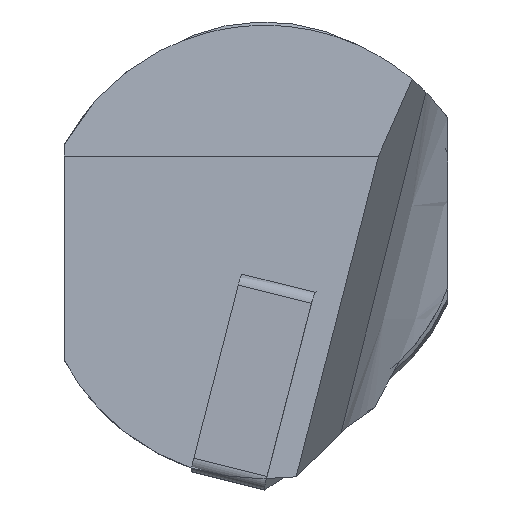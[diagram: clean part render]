
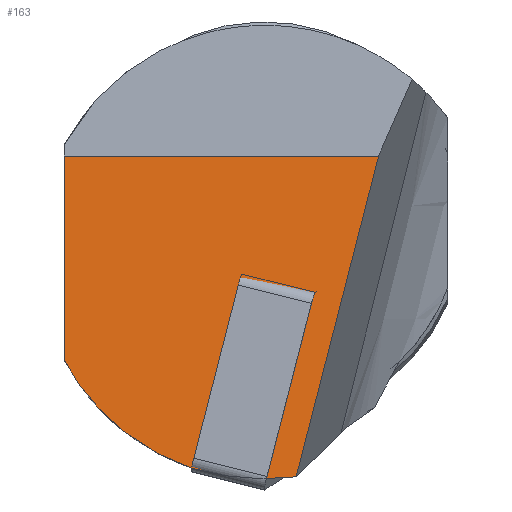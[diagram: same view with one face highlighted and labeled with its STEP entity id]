
A CAD part, top view. The second image highlights one B-rep face of the part: STEP entity #163.
In plain terms, the highlighted planar face has unit normal (0, 0.084, 0.997).
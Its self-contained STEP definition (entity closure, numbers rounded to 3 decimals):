
#120=PLANE('',#590);
#163=ADVANCED_FACE('',(#201),#120,.F.);
#201=FACE_OUTER_BOUND('',#224,.T.);
#224=EDGE_LOOP('',(#313,#314,#315,#316,#317));
#269=ELLIPSE('',#580,16.23,16.172);
#270=ELLIPSE('',#589,14.367,14.316);
#313=ORIENTED_EDGE('',*,*,#458,.T.);
#314=ORIENTED_EDGE('',*,*,#477,.F.);
#315=ORIENTED_EDGE('',*,*,#481,.T.);
#316=ORIENTED_EDGE('',*,*,#482,.T.);
#317=ORIENTED_EDGE('',*,*,#483,.F.);
#412=VERTEX_POINT('',#791);
#413=VERTEX_POINT('',#792);
#427=VERTEX_POINT('',#868);
#428=VERTEX_POINT('',#933);
#429=VERTEX_POINT('',#935);
#458=EDGE_CURVE('',#412,#413,#269,.T.);
#477=EDGE_CURVE('',#427,#413,#524,.T.);
#481=EDGE_CURVE('',#427,#428,#527,.T.);
#482=EDGE_CURVE('',#428,#429,#528,.T.);
#483=EDGE_CURVE('',#412,#429,#270,.T.);
#524=LINE('',#867,#553);
#527=LINE('',#932,#556);
#528=LINE('',#934,#557);
#553=VECTOR('',#658,1.);
#556=VECTOR('',#663,1.);
#557=VECTOR('',#664,1.);
#580=AXIS2_PLACEMENT_3D('',#790,#638,#639);
#589=AXIS2_PLACEMENT_3D('',#936,#665,#666);
#590=AXIS2_PLACEMENT_3D('',#937,#667,#668);
#638=DIRECTION('',(0.,0.084,0.997));
#639=DIRECTION('',(0.,-0.997,0.084));
#658=DIRECTION('',(-0.248,-0.965,0.081));
#663=DIRECTION('',(-1.,0.,0.));
#664=DIRECTION('',(0.,-0.997,0.084));
#665=DIRECTION('',(0.,-0.084,-0.997));
#666=DIRECTION('',(0.,-0.997,0.084));
#667=DIRECTION('',(0.,-0.084,-0.997));
#668=DIRECTION('',(0.,0.997,-0.084));
#790=CARTESIAN_POINT('',(0.,-0.119,-1.454));
#791=CARTESIAN_POINT('',(-4.606,-15.622,-0.154));
#792=CARTESIAN_POINT('',(1.976,-16.17,-0.108));
#867=CARTESIAN_POINT('',(2.59,-13.776,-0.309));
#868=CARTESIAN_POINT('',(7.153,4.,-1.799));
#932=CARTESIAN_POINT('',(-16.3,4.,-1.799));
#933=CARTESIAN_POINT('',(-12.6,4.,-1.799));
#934=CARTESIAN_POINT('',(-12.6,-17.457,0.));
#935=CARTESIAN_POINT('',(-12.6,-8.863,-0.72));
#936=CARTESIAN_POINT('',(0.,-2.066,-1.29));
#937=CARTESIAN_POINT('',(-16.3,-17.457,0.));
